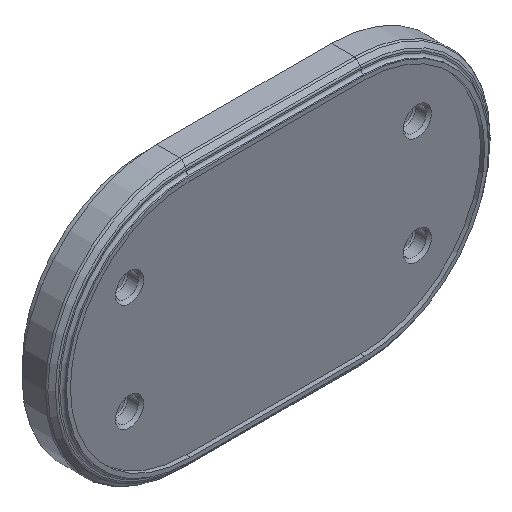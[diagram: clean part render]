
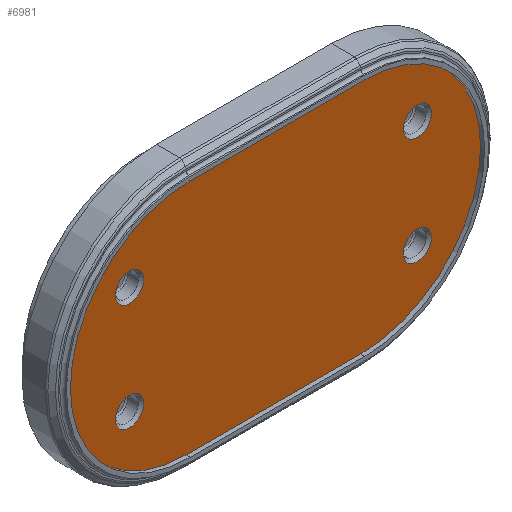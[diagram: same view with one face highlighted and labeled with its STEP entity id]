
A CAD part, isometric view. The second image highlights one B-rep face of the part: STEP entity #6981.
In plain terms, the highlighted planar face has unit normal (0, -1, 0).
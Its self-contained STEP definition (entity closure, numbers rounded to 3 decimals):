
#1 = VECTOR ( 'NONE', #4818, 1000. ) ;
#103 = CIRCLE ( 'NONE', #7435, 44.5 ) ;
#189 = FACE_BOUND ( 'NONE', #3876, .T. ) ;
#264 = CARTESIAN_POINT ( 'NONE',  ( 32.5, 0., -44.5 ) ) ;
#305 = VERTEX_POINT ( 'NONE', #6726 ) ;
#355 = ORIENTED_EDGE ( 'NONE', *, *, #2079, .T. ) ;
#392 = CARTESIAN_POINT ( 'NONE',  ( -32.5, 0., 0. ) ) ;
#399 = CIRCLE ( 'NONE', #4238, 44.5 ) ;
#489 = CIRCLE ( 'NONE', #855, 5.25 ) ;
#524 = VERTEX_POINT ( 'NONE', #5737 ) ;
#761 = DIRECTION ( 'NONE',  ( 0., 0., 1. ) ) ;
#855 = AXIS2_PLACEMENT_3D ( 'NONE', #4778, #1825, #6539 ) ;
#893 = ORIENTED_EDGE ( 'NONE', *, *, #5085, .F. ) ;
#1018 = CIRCLE ( 'NONE', #6601, 5.25 ) ;
#1054 = DIRECTION ( 'NONE',  ( 0., 1., 0. ) ) ;
#1108 = EDGE_LOOP ( 'NONE', ( #4337 ) ) ;
#1142 = ORIENTED_EDGE ( 'NONE', *, *, #4880, .F. ) ;
#1146 = EDGE_CURVE ( 'NONE', #4373, #524, #399, .T. ) ;
#1210 = DIRECTION ( 'NONE',  ( 0., 0., -1. ) ) ;
#1257 = LINE ( 'NONE', #4898, #1 ) ;
#1310 = ORIENTED_EDGE ( 'NONE', *, *, #4119, .T. ) ;
#1413 = EDGE_LOOP ( 'NONE', ( #1310 ) ) ;
#1650 = CIRCLE ( 'NONE', #5997, 5.25 ) ;
#1661 = CARTESIAN_POINT ( 'NONE',  ( -32.5, 0., -44.5 ) ) ;
#1714 = CARTESIAN_POINT ( 'NONE',  ( -32.5, 0., -44.5 ) ) ;
#1724 = CIRCLE ( 'NONE', #6809, 5.25 ) ;
#1825 = DIRECTION ( 'NONE',  ( 0., 1., 0. ) ) ;
#1961 = FACE_BOUND ( 'NONE', #6411, .T. ) ;
#2074 = FACE_OUTER_BOUND ( 'NONE', #2160, .T. ) ;
#2079 = EDGE_CURVE ( 'NONE', #6842, #6842, #1650, .T. ) ;
#2160 = EDGE_LOOP ( 'NONE', ( #7501, #893, #3168, #1142 ) ) ;
#2399 = DIRECTION ( 'NONE',  ( 0., 1., 0. ) ) ;
#2477 = AXIS2_PLACEMENT_3D ( 'NONE', #4331, #5660, #3185 ) ;
#2672 = VERTEX_POINT ( 'NONE', #264 ) ;
#2865 = CARTESIAN_POINT ( 'NONE',  ( 53.5, 0., -20. ) ) ;
#3121 = FACE_BOUND ( 'NONE', #1108, .T. ) ;
#3126 = CARTESIAN_POINT ( 'NONE',  ( -53.5, 0., -25.25 ) ) ;
#3143 = CARTESIAN_POINT ( 'NONE',  ( 32.5, 0., 0. ) ) ;
#3168 = ORIENTED_EDGE ( 'NONE', *, *, #5605, .F. ) ;
#3185 = DIRECTION ( 'NONE',  ( 0., 0., -1. ) ) ;
#3402 = DIRECTION ( 'NONE',  ( 0., 0., -1. ) ) ;
#3779 = CARTESIAN_POINT ( 'NONE',  ( -53.5, 0., 14.75 ) ) ;
#3807 = EDGE_CURVE ( 'NONE', #6219, #6219, #489, .T. ) ;
#3876 = EDGE_LOOP ( 'NONE', ( #355 ) ) ;
#4119 = EDGE_CURVE ( 'NONE', #305, #305, #1724, .T. ) ;
#4238 = AXIS2_PLACEMENT_3D ( 'NONE', #392, #6921, #7588 ) ;
#4331 = CARTESIAN_POINT ( 'NONE',  ( -57.75, 0., -20. ) ) ;
#4337 = ORIENTED_EDGE ( 'NONE', *, *, #3807, .T. ) ;
#4373 = VERTEX_POINT ( 'NONE', #1661 ) ;
#4374 = DIRECTION ( 'NONE',  ( 0., 0., -1. ) ) ;
#4408 = CARTESIAN_POINT ( 'NONE',  ( 53.5, 0., 20. ) ) ;
#4511 = LINE ( 'NONE', #1714, #6316 ) ;
#4653 = VERTEX_POINT ( 'NONE', #7580 ) ;
#4745 = CARTESIAN_POINT ( 'NONE',  ( -53.5, 0., -20. ) ) ;
#4778 = CARTESIAN_POINT ( 'NONE',  ( -53.5, 0., 20. ) ) ;
#4818 = DIRECTION ( 'NONE',  ( 1., 0., 0. ) ) ;
#4880 = EDGE_CURVE ( 'NONE', #524, #5331, #1257, .T. ) ;
#4898 = CARTESIAN_POINT ( 'NONE',  ( -32.5, 0., 44.5 ) ) ;
#4906 = DIRECTION ( 'NONE',  ( 0., 1., 0. ) ) ;
#4921 = CARTESIAN_POINT ( 'NONE',  ( 32.5, 0., 44.5 ) ) ;
#5085 = EDGE_CURVE ( 'NONE', #2672, #4373, #4511, .T. ) ;
#5331 = VERTEX_POINT ( 'NONE', #4921 ) ;
#5605 = EDGE_CURVE ( 'NONE', #5331, #2672, #103, .T. ) ;
#5660 = DIRECTION ( 'NONE',  ( 0., -1., 0. ) ) ;
#5737 = CARTESIAN_POINT ( 'NONE',  ( -32.5, 0., 44.5 ) ) ;
#5838 = DIRECTION ( 'NONE',  ( -1., 0., 0. ) ) ;
#5997 = AXIS2_PLACEMENT_3D ( 'NONE', #4745, #2399, #1210 ) ;
#6098 = PLANE ( 'NONE',  #2477 ) ;
#6139 = ORIENTED_EDGE ( 'NONE', *, *, #7015, .T. ) ;
#6172 = DIRECTION ( 'NONE',  ( 0., 1., 0. ) ) ;
#6219 = VERTEX_POINT ( 'NONE', #3779 ) ;
#6316 = VECTOR ( 'NONE', #5838, 1000. ) ;
#6411 = EDGE_LOOP ( 'NONE', ( #6139 ) ) ;
#6539 = DIRECTION ( 'NONE',  ( 0., 0., -1. ) ) ;
#6601 = AXIS2_PLACEMENT_3D ( 'NONE', #4408, #6172, #4374 ) ;
#6720 = FACE_BOUND ( 'NONE', #1413, .T. ) ;
#6726 = CARTESIAN_POINT ( 'NONE',  ( 53.5, 0., -25.25 ) ) ;
#6809 = AXIS2_PLACEMENT_3D ( 'NONE', #2865, #1054, #3402 ) ;
#6842 = VERTEX_POINT ( 'NONE', #3126 ) ;
#6921 = DIRECTION ( 'NONE',  ( 0., 1., 0. ) ) ;
#6981 = ADVANCED_FACE ( 'NONE', ( #1961, #2074, #3121, #189, #6720 ), #6098, .T. ) ;
#7015 = EDGE_CURVE ( 'NONE', #4653, #4653, #1018, .T. ) ;
#7435 = AXIS2_PLACEMENT_3D ( 'NONE', #3143, #4906, #761 ) ;
#7501 = ORIENTED_EDGE ( 'NONE', *, *, #1146, .F. ) ;
#7580 = CARTESIAN_POINT ( 'NONE',  ( 53.5, 0., 14.75 ) ) ;
#7588 = DIRECTION ( 'NONE',  ( 0., 0., 1. ) ) ;
